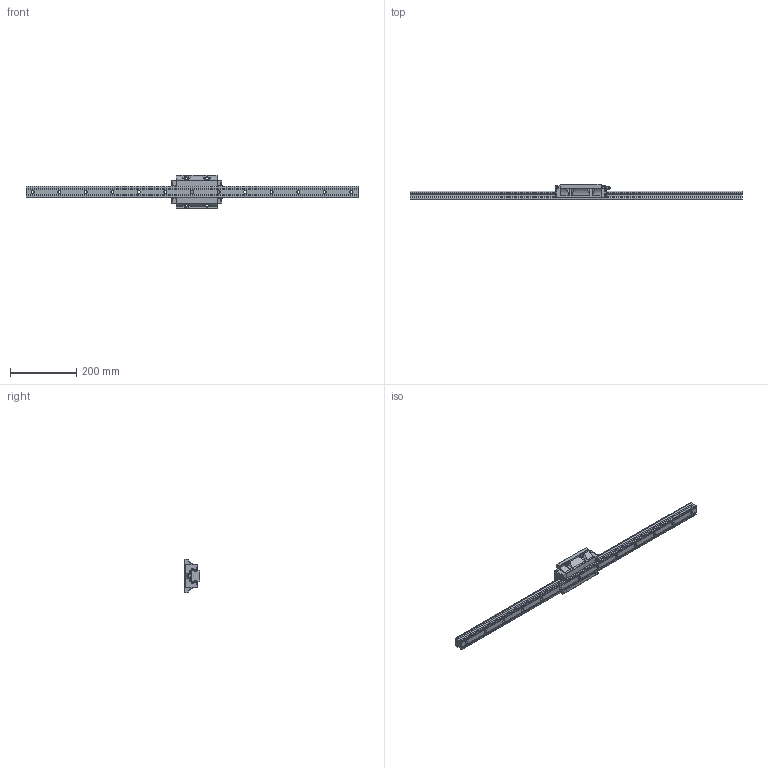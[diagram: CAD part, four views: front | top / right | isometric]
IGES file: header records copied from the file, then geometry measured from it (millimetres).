
Start section: SolidWorks IGES file using analytic representation for surfaces
Global section: file name: C:\Users\tsuch\OneDrive\デスクトップ\EG35関連修正(3D)\EGH35FL.IGS; native system: SolidWorks 2019; preprocessor: SolidWorks 2019; author: tsuch; date: 210706.144847; units: millimetre
Bounding box: 1000 x 48 x 100 mm (x, y, z)
Surface area: 203121.6 mm2 (no closed solid volume)
Topology: 0 solids, 0 shells, 619 faces, 7123 edges, 7123 vertices
Faces by surface type: bspline 381, revolution 238
